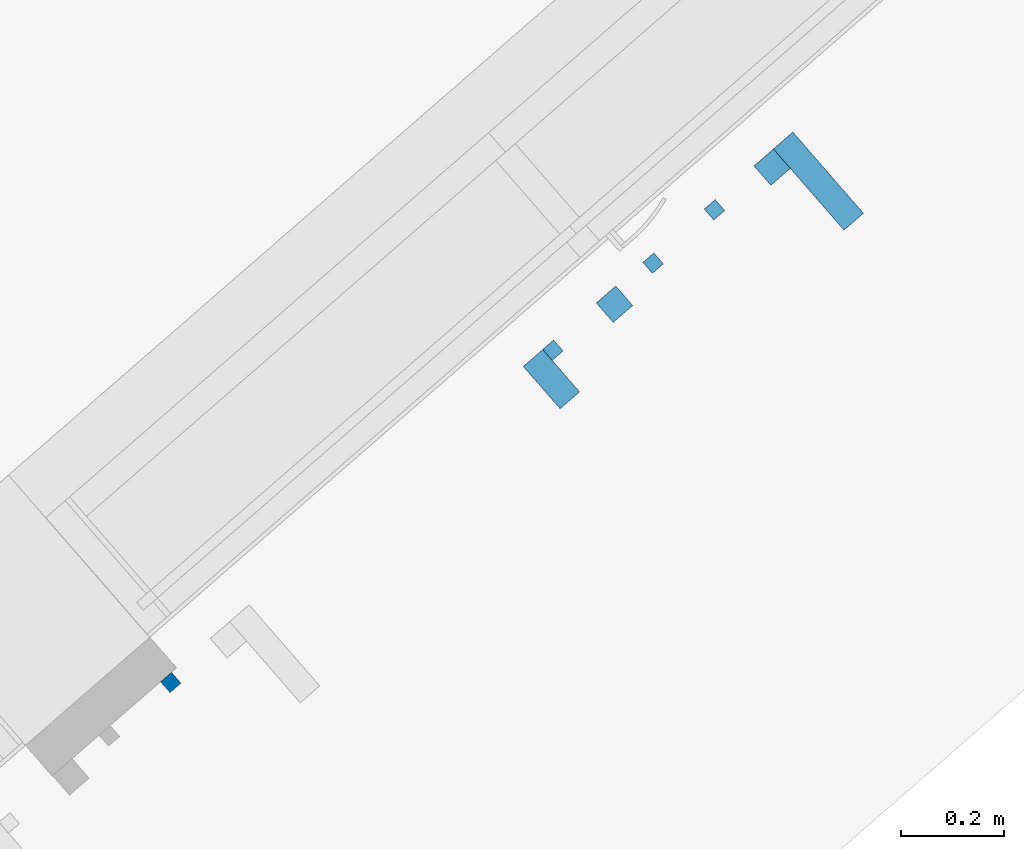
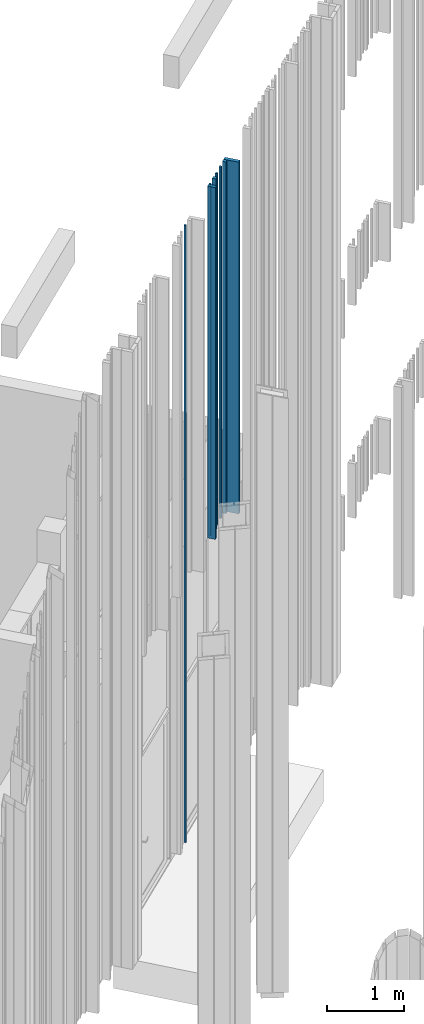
# One storey, part 207 of 390: 8 walls.
"""IFC2X3 building model written with IfcOpenShell, lengths in millimetres."""

from ifc_helpers import new_model, entity, si_unit, converted_unit, derived_unit, money_unit, direction, frame, origin_with_axes, place, context, subcontext, project, spatial, faceted_brep, material, type_object, element, save


model = new_model("IFC2X3")

# Units and contexts
model_context = context("Model", 3, precision=1e-05, world=origin_with_axes(), true_north=direction((0.0, 1.0)))
body_context = subcontext(model_context, "Body", "Model", "MODEL_VIEW")
ifc_project = project(units=[si_unit("LENGTHUNIT", "METRE", prefix="MILLI"), si_unit("AREAUNIT", "SQUARE_METRE"), si_unit("VOLUMEUNIT", "CUBIC_METRE"), converted_unit("PLANEANGLEUNIT", "DEGREE", entity("IfcPlaneAngleMeasure", 0.0174532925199), si_unit("PLANEANGLEUNIT", "RADIAN"), dimensions=[0, 0, 0, 0, 0, 0, 0]), si_unit("SOLIDANGLEUNIT", "STERADIAN"), money_unit("EUR"), converted_unit("TIMEUNIT", "Year", entity("IfcTimeMeasure", 31556926.0), si_unit("TIMEUNIT", "SECOND"), dimensions=[0, 0, 1, 0, 0, 0, 0]), si_unit("MASSUNIT", "GRAM", prefix="KILO"), si_unit("THERMODYNAMICTEMPERATUREUNIT", "DEGREE_CELSIUS"), si_unit("LUMINOUSINTENSITYUNIT", "LUMEN"), si_unit("ENERGYUNIT", "JOULE", prefix="MEGA"), derived_unit("THERMALCONDUCTANCEUNIT", [(si_unit("POWERUNIT", "WATT"), 1), (si_unit("LENGTHUNIT", "METRE"), -1), (si_unit("THERMODYNAMICTEMPERATUREUNIT", "KELVIN"), -1)]), derived_unit("SPECIFICHEATCAPACITYUNIT", [(si_unit("ENERGYUNIT", "JOULE"), 1), (si_unit("MASSUNIT", "GRAM", prefix="KILO"), -1), (si_unit("THERMODYNAMICTEMPERATUREUNIT", "KELVIN"), -1)]), derived_unit("MASSDENSITYUNIT", [(si_unit("MASSUNIT", "GRAM", prefix="KILO"), 1), (si_unit("VOLUMEUNIT", "CUBIC_METRE"), -1)])], contexts=[model_context])

# Site, building, storey
site_placement = place(None, origin_with_axes())
site = spatial("IfcSite", under=ifc_project, at=site_placement, Name="Site", CompositionType="ELEMENT")
building_placement = place(site_placement, origin_with_axes())
building = spatial("IfcBuilding", under=site, at=building_placement, Name="Building", CompositionType="ELEMENT")
storey_placement = place(building_placement, origin_with_axes())
storey = spatial("IfcBuildingStorey", under=building, at=storey_placement, Name="1 korrus", CompositionType="ELEMENT", Elevation=0.0)

# Walls
ifc_material = material(Name="Site specified")
wall_type = type_object("IfcWallType", Name="Puitfassaadi ribistik", PredefinedType="NOTDEFINED")
wall_1_placement = place(storey_placement, frame((147572.489028, 72874.3363477, 4300.0), z_axis=(0.0, 0.0, 1.0), x_axis=(-0.754709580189, -0.65605902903, 0.0)))
element("IfcWall", 1, at=wall_1_placement, inside=storey, type_object=wall_type, material=ifc_material, Name="Site specified", context=body_context, shape_type="Brep", body=[
    faceted_brep([(-25.0, -54.5, 5565.0), (-25.0, -54.5, 0.0), (25.0, -54.5, 0.0), (25.0, -54.5, 5565.0), (-25.0, 54.5, 5565.0), (-25.0, 54.5, 0.0), (25.0, 54.5, 0.0), (25.0, 54.5, 5565.0)], [[[0, 1, 2, 3]], [[4, 5, 1, 0]], [[2, 1, 5, 6]], [[3, 2, 6, 7]], [[4, 0, 3, 7]], [[7, 6, 5, 4]]]),
])
wall_2_placement = place(storey_placement, frame((148091.324949, 73259.1028834, 4300.0), z_axis=(0.0, 0.0, 1.0), x_axis=(-0.754709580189, -0.65605902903, 0.0)))
element("IfcWall", 2, at=wall_2_placement, inside=storey, type_object=wall_type, material=ifc_material, Name="Site specified", context=body_context, shape_type="Brep", body=[
    faceted_brep([(-25.0, -104.5, 5565.0), (-25.0, -104.5, 0.0), (25.0, -104.5, 0.0), (25.0, -104.5, 5565.0), (-25.0, 104.5, 5565.0), (-25.0, 104.5, 0.0), (25.0, 104.5, 0.0), (25.0, 104.5, 5565.0)], [[[0, 1, 2, 3]], [[4, 5, 1, 0]], [[2, 1, 5, 6]], [[3, 2, 6, 7]], [[4, 0, 3, 7]], [[7, 6, 5, 4]]]),
])
wall_3_placement = place(storey_placement, frame((147889.311496, 73203.4089439, 4300.0), z_axis=(0.0, 0.0, 1.0), x_axis=(-0.754709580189, -0.65605902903, 0.0)))
element("IfcWall", 3, at=wall_3_placement, inside=storey, type_object=wall_type, material=ifc_material, Name="Site specified", context=body_context, shape_type="Brep", body=[
    faceted_brep([(-14.0, -14.0, 5565.0), (-14.0, -14.0, 0.0), (14.0, -14.0, 0.0), (14.0, -14.0, 5565.0), (-14.0, 14.0, 5565.0), (-14.0, 14.0, 0.0), (14.0, 14.0, 0.0), (14.0, 14.0, 5565.0)], [[[0, 1, 2, 3]], [[4, 5, 1, 0]], [[2, 1, 5, 6]], [[3, 2, 6, 7]], [[4, 0, 3, 7]], [[7, 6, 5, 4]]]),
])
for number, where, z_axis, x_axis, name in (
    (4, (147695.020687, 73019.9393777, 4300.0), (0.0, 0.0, 1.0), (-0.754709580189, -0.65605902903, 0.0), "Site specified"),
    (5, (148001.432777, 73286.2993435, 4300.0), (0.0, 0.0, 1.0), (-0.754709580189, -0.65605902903, 0.0), "Site specified"),
):
    element("IfcWall", number, at=place(storey_placement, frame(where, z_axis=z_axis, x_axis=x_axis)), inside=storey, type_object=wall_type, material=ifc_material, Name=name, context=body_context, shape_type="Brep", body=[
        faceted_brep([(-25.0, -25.0, 5565.0), (-25.0, -25.0, 0.0), (25.0, -25.0, 0.0), (25.0, -25.0, 5565.0), (-25.0, 25.0, 5565.0), (-25.0, 25.0, 0.0), (25.0, 25.0, 0.0), (25.0, 25.0, 5565.0)], [[[0, 1, 2, 3]], [[4, 5, 1, 0]], [[2, 1, 5, 6]], [[3, 2, 6, 7]], [[4, 0, 3, 7]], [[7, 6, 5, 4]]]),
    ])
for number, where, z_axis, x_axis, name in (
    (6, (147575.352311, 72930.4883878, 4300.0), (0.0, 0.0, 1.0), (-0.754709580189, -0.65605902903, 0.0), "Site specified"),
    (7, (147770.067382, 73099.7516173, 4300.0), (0.0, 0.0, 1.0), (-0.754709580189, -0.65605902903, 0.0), "Site specified"),
):
    element("IfcWall", number, at=place(storey_placement, frame(where, z_axis=z_axis, x_axis=x_axis)), inside=storey, type_object=wall_type, material=ifc_material, Name=name, context=body_context, shape_type="Brep", body=[
        faceted_brep([(-14.0, -14.0, 5565.0), (-14.0, -14.0, 0.0), (14.0, -14.0, 0.0), (14.0, -14.0, 5565.0), (-14.0, 14.0, 5565.0), (-14.0, 14.0, 0.0), (14.0, 14.0, 0.0), (14.0, 14.0, 5565.0)], [[[0, 1, 2, 3]], [[4, 5, 1, 0]], [[2, 1, 5, 6]], [[3, 2, 6, 7]], [[4, 0, 3, 7]], [[7, 6, 5, 4]]]),
    ])
wall_4_placement = place(storey_placement, frame((146832.718084, 72284.9263032, 100.0), z_axis=(0.0, 0.0, 1.0), x_axis=(-0.754709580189, -0.65605902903, 0.0)))
element("IfcWall", 8, at=wall_4_placement, inside=storey, type_object=wall_type, material=ifc_material, Name="Site specified", context=body_context, shape_type="Brep", body=[
    faceted_brep([(-14.0, -14.0, 9765.0), (-14.0, -14.0, 0.0), (14.0, -14.0, 0.0), (14.0, -14.0, 9765.0), (-14.0, 14.0, 9765.0), (-14.0, 14.0, 0.0), (14.0, 14.0, 0.0), (14.0, 14.0, 9765.0)], [[[0, 1, 2, 3]], [[4, 5, 1, 0]], [[2, 1, 5, 6]], [[3, 2, 6, 7]], [[4, 0, 3, 7]], [[7, 6, 5, 4]]]),
])

save(model, "model.ifc")
